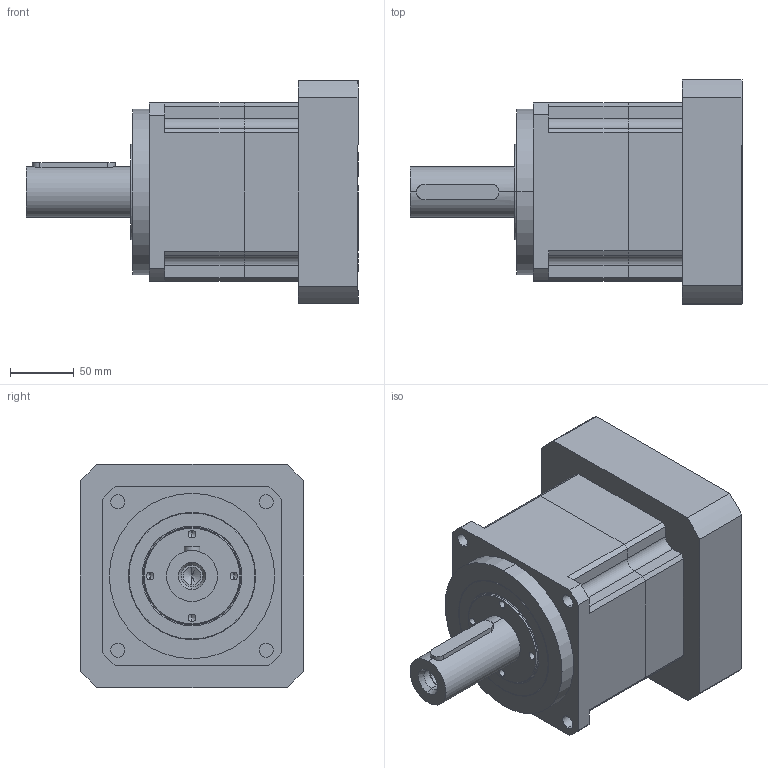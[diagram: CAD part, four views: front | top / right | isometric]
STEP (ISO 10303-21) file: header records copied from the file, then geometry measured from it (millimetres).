
FILE_DESCRIPTION (( 'STEP AP214' ), '1' );
FILE_NAME ('PX140-L1.STEP', '2020-11-06T03:42:48', ( '微软用户' ), ( '微软中国' ), 'SwSTEP 2.0', 'SolidWorks 2014', '' );
FILE_SCHEMA (( 'AUTOMOTIVE_DESIGN' ));
Length unit declared in the file: millimetre
Products named in the file (8): PX140-L1; PX140奻裔啣; PX140狟裔啣; PM140 蟀諉啣 176選 114.3x10 200xM8 47L; 邧埴瑩 12x8x65; TC75-100-10_TC-34.9-55-7; TC70-95-8_TC-34.9-55-7; 囀鞠褒蹟佪-M10℅30
Assembly tree (7 placements, depth 2):
  PX140-L1
    PX140奻裔啣
    PX140狟裔啣
    PM140 蟀諉啣 176選 114.3x10 200xM8 47L
    邧埴瑩 12x8x65
    TC75-100-10_TC-34.9-55-7
    TC70-95-8_TC-34.9-55-7
    囀鞠褒蹟佪-M10℅30
Bounding box: 261 x 176 x 176 mm (x, y, z)
Volume: 3462467.8 mm3; surface area: 334945.4 mm2
Topology: 7 solids, 7 shells, 342 faces, 844 edges, 528 vertices
Faces by surface type: cylinder 162, plane 106, cone 42, torus 32
Entity records: 10925 total; most frequent: CARTESIAN_POINT 1996, DIRECTION 1953, ORIENTED_EDGE 1652, EDGE_CURVE 826, AXIS2_PLACEMENT_3D 785, VERTEX_POINT 528, CIRCLE 433, EDGE_LOOP 408
